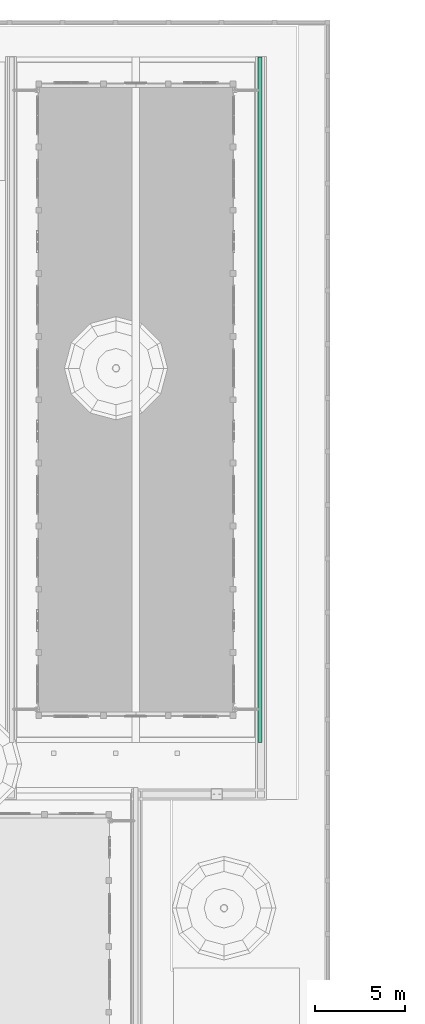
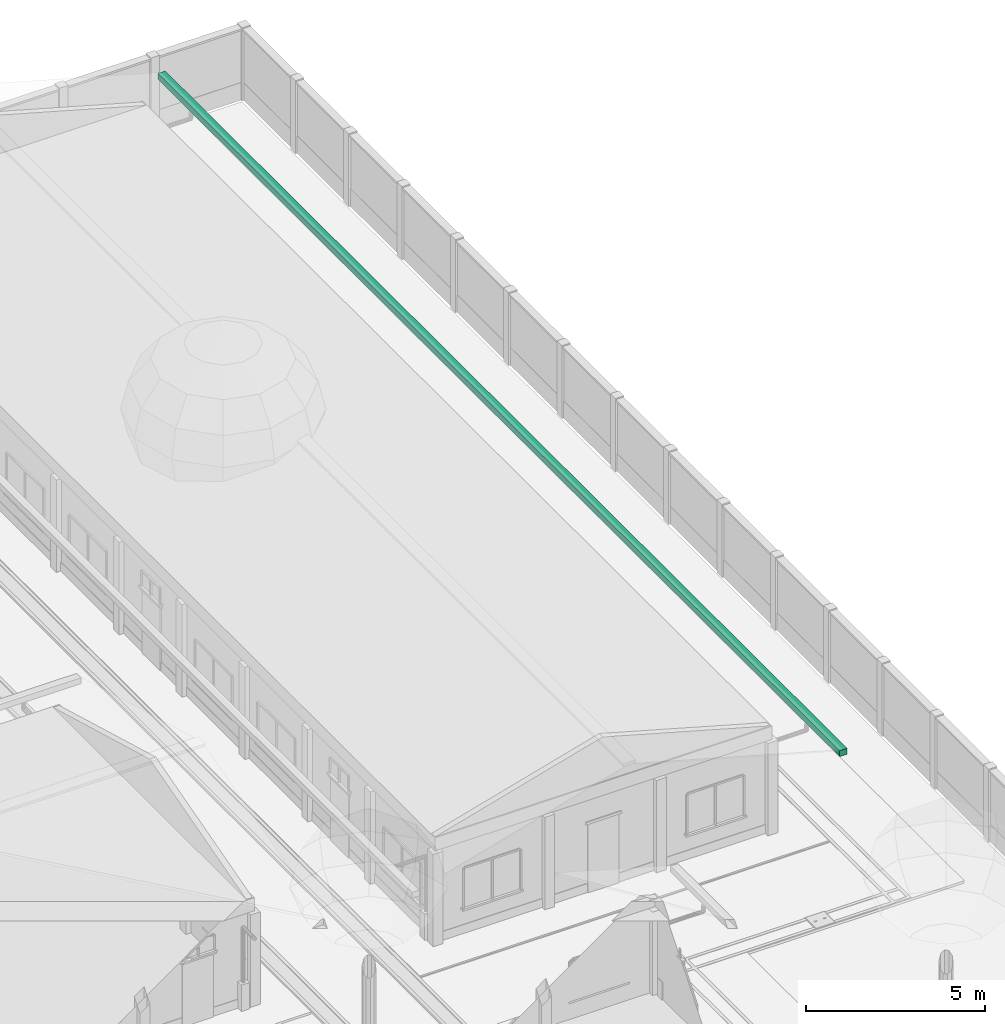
# One storey, part 115 of 177: 1 pipe segment.
"""IFC4 building model written with IfcOpenShell, lengths in metres."""

from ifc_helpers import new_model, si_unit, origin, origin_with_axes, place, context, subcontext, project, spatial, triangles, element, save


model = new_model("IFC4")

# Units and contexts
model_context = context("Model", 3, precision=1e-05, world=origin_with_axes())
body_context = subcontext(model_context, "Body", "Model", "MODEL_VIEW")
ifc_project = project(units=[si_unit("LENGTHUNIT", "METRE"), si_unit("AREAUNIT", "SQUARE_METRE"), si_unit("VOLUMEUNIT", "CUBIC_METRE"), si_unit("PLANEANGLEUNIT", "RADIAN")], contexts=[model_context])

# Site, building, storey
site_placement = place(None, origin_with_axes())
site = spatial("IfcSite", under=ifc_project, at=site_placement, Name="Predio Los Mangos - Morales, San Martín", CompositionType="ELEMENT")
building_placement = place(site_placement, origin())
building = spatial("IfcBuilding", under=site, at=building_placement, Name="Hogar de Refugio Temporal", CompositionType="ELEMENT")
storey_placement = place(building_placement, origin())
storey = spatial("IfcBuildingStorey", under=building, at=storey_placement, Name="NIVEL 1 (NPT +0.00)", CompositionType="ELEMENT", Elevation=0.0)

# Pipe segment
pipe_segment_placement = place(storey_placement, origin())
element("IfcPipeSegment", 1, at=pipe_segment_placement, inside=storey, Name="E-07_canaleta", ObjectType="Canaleta", PredefinedType="GUTTER", context=body_context, shape_type="Tessellation", body=[
    triangles([(67.88, 91.2, 3.13), (68.12, 91.2, 3.13), (68.12, 129.3, 3.13), (67.88, 129.3, 3.13), (67.88, 91.2, 3.33), (68.12, 91.2, 3.33), (68.12, 129.3, 3.33), (67.88, 129.3, 3.33)], [[1, 4, 3], [1, 3, 2], [5, 6, 7], [5, 7, 8], [1, 2, 6], [1, 6, 5], [2, 3, 7], [2, 7, 6], [3, 4, 8], [3, 8, 7], [4, 1, 5], [4, 5, 8]]),
])

save(model, "model.ifc")
